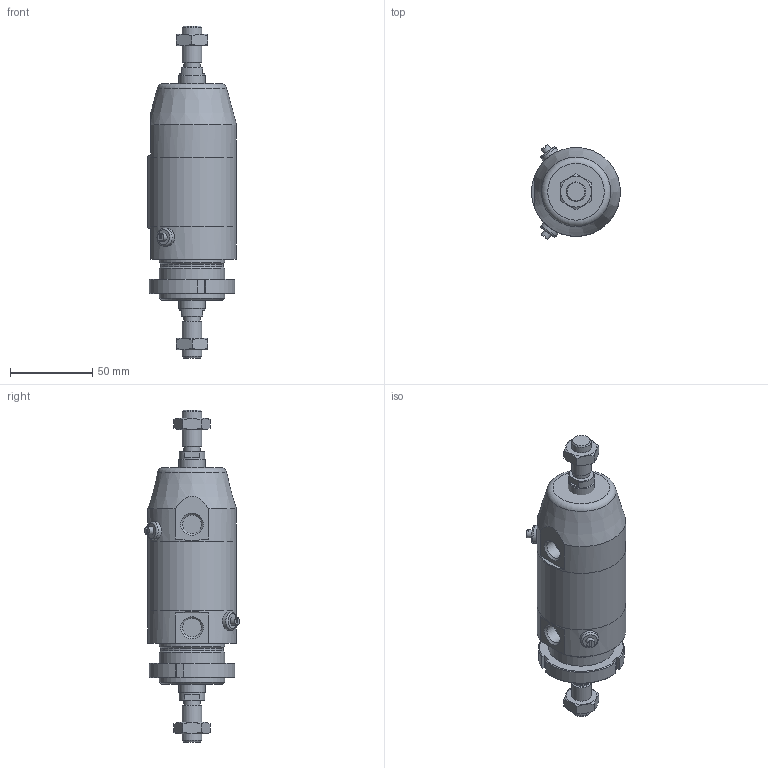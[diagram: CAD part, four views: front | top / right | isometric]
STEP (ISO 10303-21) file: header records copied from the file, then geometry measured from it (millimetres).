
FILE_DESCRIPTION(/* description */ (''),/* implementation_level */ '2;1');
FILE_NAME(/* name */ 'I:\Area Tecnica\Documenti\A-Manieri\_Inventor\12X\12X#T_###_####_#_#\12XDT_050_0000_#_#.stp',/* time_stamp */ '2015-05-13T09:08:38+02:00',/* author */ ('maniean1'),/* organization */ ('Pneumax S.p.A.'),/* preprocessor_version */ 'ST-DEVELOPER v15.2',/* originating_system */ 'Autodesk Inventor 2014',/* authorisation */ '');
FILE_SCHEMA (('AUTOMOTIVE_DESIGN { 1 0 10303 214 3 1 1 }'));
Length unit declared in the file: millimetre
Products named in the file (7): C1250_619-0000; 12X50_606; SP12X50_0000; 12X_50_11; 12X50_614; G12X_050_05; 12XDT_050_0000_#_#
Bounding box: 54 x 57.75 x 202 mm (x, y, z)
Volume: 284468 mm3; surface area: 64718.3 mm2
Topology: 7 solids, 7 shells, 125 faces, 280 edges, 180 vertices
Faces by surface type: plane 66, cylinder 30, cone 26, torus 3
Full cylindrical faces by diameter (mm): 5 x2, 10.2 x2, 11 x2, 11.4 x2, 12 x4, 14 x2, 15.6 x2, 16 x2, 38.2 x1, 40 x3, 50 x2, 54 x3
Entity records: 3058 total; most frequent: CARTESIAN_POINT 614, DIRECTION 513, ORIENTED_EDGE 402, AXIS2_PLACEMENT_3D 219, EDGE_CURVE 201, EDGE_LOOP 178, VERTEX_POINT 153, ADVANCED_FACE 114
